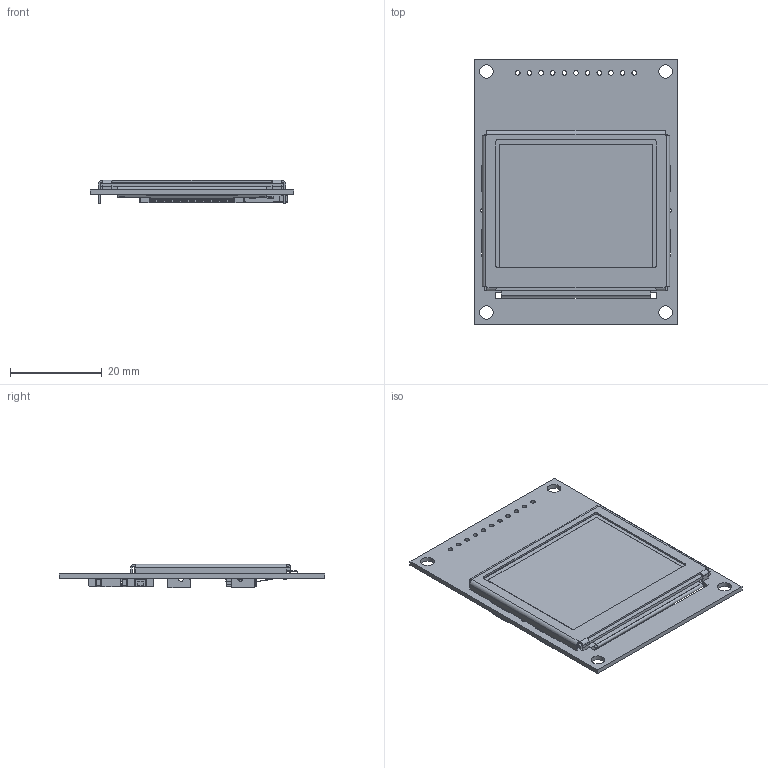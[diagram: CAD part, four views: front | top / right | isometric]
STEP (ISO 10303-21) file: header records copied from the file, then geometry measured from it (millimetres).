
FILE_DESCRIPTION (( 'STEP AP214' ), '1' );
FILE_NAME ('NHD-1.69-160128ASC3.STEP', '2017-06-01T16:42:30', ( '' ), ( '' ), 'SwSTEP 2.0', 'SolidWorks 2015', '' );
FILE_SCHEMA (( 'AUTOMOTIVE_DESIGN' ));
Length unit declared in the file: millimetre
Products named in the file (6): NHD-1.69-160128ASC3; NHD-1.69-Bezel; OLED; FFC35TOP; MICROSD; NHD_1_69__05302017_10-32-40
Assembly tree (5 placements, depth 2):
  NHD-1.69-160128ASC3
    NHD_1_69__05302017_10-32-40
    MICROSD
    FFC35TOP
    OLED
    NHD-1.69-Bezel
Bounding box: 44.5 x 58 x 5.1 mm (x, y, z)
Volume: 5187.9 mm3; surface area: 12411.6 mm2
Topology: 6 solids, 6 shells, 2497 faces, 7713 edges, 5104 vertices
Faces by surface type: plane 2008, cylinder 487, bspline 2
Entity records: 87480 total; most frequent: CARTESIAN_POINT 15725, ORIENTED_EDGE 15426, DIRECTION 13480, EDGE_CURVE 7713, LINE 6730, VECTOR 6730, VERTEX_POINT 5104, AXIS2_PLACEMENT_3D 3375
